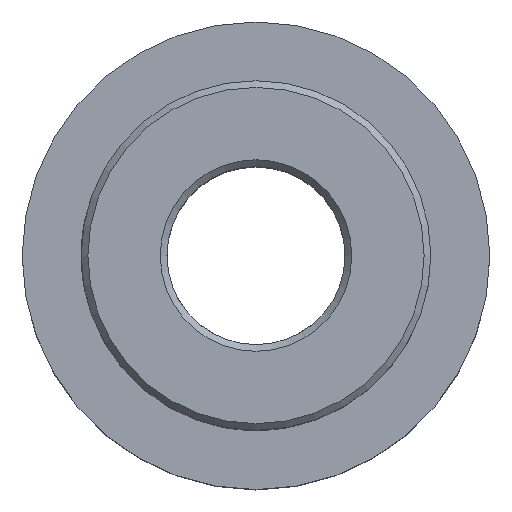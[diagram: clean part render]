
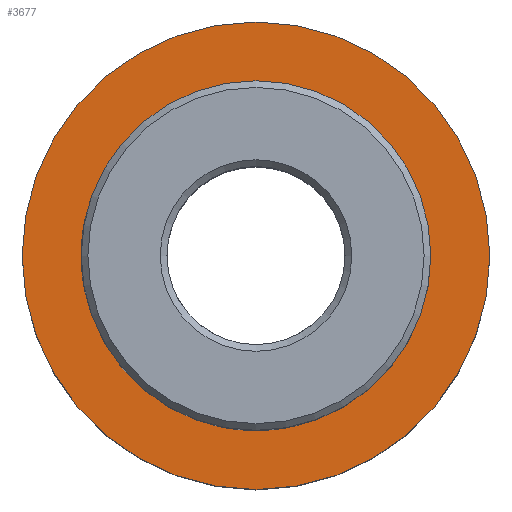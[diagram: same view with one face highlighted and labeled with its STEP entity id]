
A CAD part, top view. The second image highlights one B-rep face of the part: STEP entity #3677.
In plain terms, the highlighted planar face has unit normal (0, 0, 1).
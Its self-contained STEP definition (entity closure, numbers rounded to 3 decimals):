
#20=PLANE('',#4256);
#31=FACE_BOUND('',#438,.T.);
#234=FACE_OUTER_BOUND('',#437,.T.);
#437=EDGE_LOOP('',(#2917));
#438=EDGE_LOOP('',(#2918));
#1201=CIRCLE('',#4254,7.85);
#1202=CIRCLE('',#4257,10.5);
#1580=VERTEX_POINT('',#6941);
#1581=VERTEX_POINT('',#6947);
#2146=EDGE_CURVE('',#1580,#1580,#1201,.T.);
#2148=EDGE_CURVE('',#1581,#1581,#1202,.T.);
#2917=ORIENTED_EDGE('',*,*,#2148,.T.);
#2918=ORIENTED_EDGE('',*,*,#2146,.T.);
#3677=ADVANCED_FACE('',(#234,#31),#20,.T.);
#4254=AXIS2_PLACEMENT_3D('',#6943,#5570,#5571);
#4256=AXIS2_PLACEMENT_3D('',#6946,#5575,#5576);
#4257=AXIS2_PLACEMENT_3D('',#6948,#5577,#5578);
#5570=DIRECTION('center_axis',(0.,0.,-1.));
#5571=DIRECTION('ref_axis',(-1.,0.,0.));
#5575=DIRECTION('center_axis',(0.,0.,1.));
#5576=DIRECTION('ref_axis',(-1.,0.,0.));
#5577=DIRECTION('center_axis',(0.,0.,1.));
#5578=DIRECTION('ref_axis',(-1.,0.,0.));
#6941=CARTESIAN_POINT('',(7.85,0.,5.));
#6943=CARTESIAN_POINT('Origin',(0.,0.,5.));
#6946=CARTESIAN_POINT('Origin',(0.,0.,5.));
#6947=CARTESIAN_POINT('',(10.5,0.,5.));
#6948=CARTESIAN_POINT('Origin',(0.,0.,5.));
